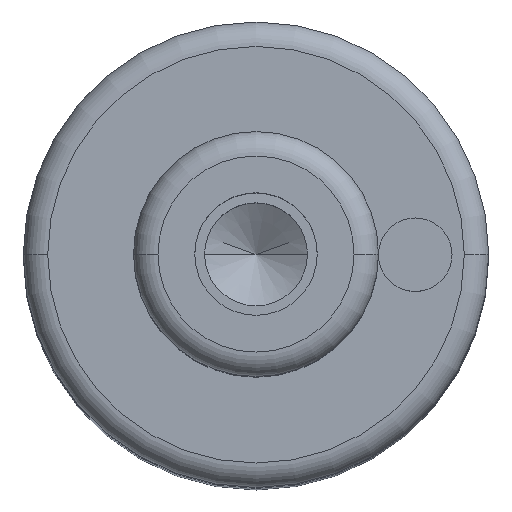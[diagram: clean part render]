
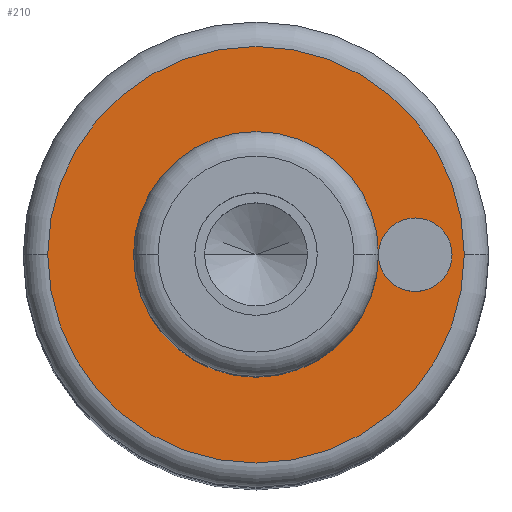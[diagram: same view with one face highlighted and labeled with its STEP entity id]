
A CAD part, top view. The second image highlights one B-rep face of the part: STEP entity #210.
In plain terms, the highlighted planar face has unit normal (0, 0, 1).
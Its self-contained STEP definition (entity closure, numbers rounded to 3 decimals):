
#99=PLANE('',#660);
#107=FACE_BOUND('',#285,.T.);
#108=FACE_BOUND('',#286,.T.);
#109=FACE_BOUND('',#287,.T.);
#210=ADVANCED_FACE('',(#107,#108,#109),#99,.T.);
#285=EDGE_LOOP('',(#395,#396));
#286=EDGE_LOOP('',(#397,#398));
#287=EDGE_LOOP('',(#399,#400));
#395=ORIENTED_EDGE('',*,*,#500,.F.);
#396=ORIENTED_EDGE('',*,*,#501,.F.);
#397=ORIENTED_EDGE('',*,*,#533,.F.);
#398=ORIENTED_EDGE('',*,*,#534,.F.);
#399=ORIENTED_EDGE('',*,*,#496,.T.);
#400=ORIENTED_EDGE('',*,*,#494,.T.);
#447=VERTEX_POINT('',#894);
#448=VERTEX_POINT('',#896);
#449=VERTEX_POINT('',#902);
#452=VERTEX_POINT('',#907);
#470=VERTEX_POINT('',#977);
#471=VERTEX_POINT('',#978);
#494=EDGE_CURVE('',#448,#447,#561,.T.);
#496=EDGE_CURVE('',#447,#448,#562,.T.);
#500=EDGE_CURVE('',#452,#449,#566,.T.);
#501=EDGE_CURVE('',#449,#452,#567,.T.);
#533=EDGE_CURVE('',#470,#471,#587,.T.);
#534=EDGE_CURVE('',#471,#470,#588,.T.);
#561=CIRCLE('',#612,5.);
#562=CIRCLE('',#614,5.);
#566=CIRCLE('',#619,8.5);
#567=CIRCLE('',#621,8.5);
#587=CIRCLE('',#658,1.5);
#588=CIRCLE('',#659,1.5);
#612=AXIS2_PLACEMENT_3D('',#895,#711,#712);
#614=AXIS2_PLACEMENT_3D('',#899,#716,#717);
#619=AXIS2_PLACEMENT_3D('',#908,#726,#727);
#621=AXIS2_PLACEMENT_3D('',#910,#730,#731);
#658=AXIS2_PLACEMENT_3D('',#976,#816,#817);
#659=AXIS2_PLACEMENT_3D('',#979,#818,#819);
#660=AXIS2_PLACEMENT_3D('',#980,#820,#821);
#711=DIRECTION('',(0.,0.,-1.));
#712=DIRECTION('',(-1.,0.,0.));
#716=DIRECTION('',(0.,0.,-1.));
#717=DIRECTION('',(-1.,0.,0.));
#726=DIRECTION('',(0.,0.,-1.));
#727=DIRECTION('',(-1.,0.,0.));
#730=DIRECTION('',(0.,0.,-1.));
#731=DIRECTION('',(-1.,0.,0.));
#816=DIRECTION('',(0.,0.,1.));
#817=DIRECTION('',(1.,0.,0.));
#818=DIRECTION('',(0.,0.,1.));
#819=DIRECTION('',(1.,0.,0.));
#820=DIRECTION('',(0.,0.,1.));
#821=DIRECTION('',(0.,-1.,0.));
#894=CARTESIAN_POINT('',(-5.,0.,59.));
#895=CARTESIAN_POINT('',(0.,0.,59.));
#896=CARTESIAN_POINT('',(5.,0.,59.));
#899=CARTESIAN_POINT('',(0.,0.,59.));
#902=CARTESIAN_POINT('',(-8.5,0.,59.));
#907=CARTESIAN_POINT('',(8.5,0.,59.));
#908=CARTESIAN_POINT('',(0.,0.,59.));
#910=CARTESIAN_POINT('',(0.,0.,59.));
#976=CARTESIAN_POINT('',(6.5,0.,59.));
#977=CARTESIAN_POINT('',(5.,0.,59.));
#978=CARTESIAN_POINT('',(8.,0.,59.));
#979=CARTESIAN_POINT('',(6.5,0.,59.));
#980=CARTESIAN_POINT('',(0.,0.,59.));
